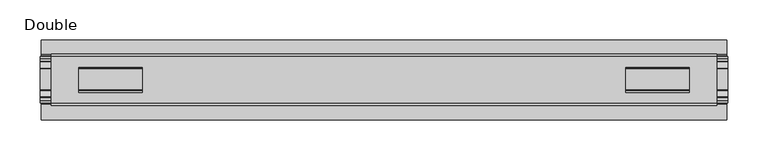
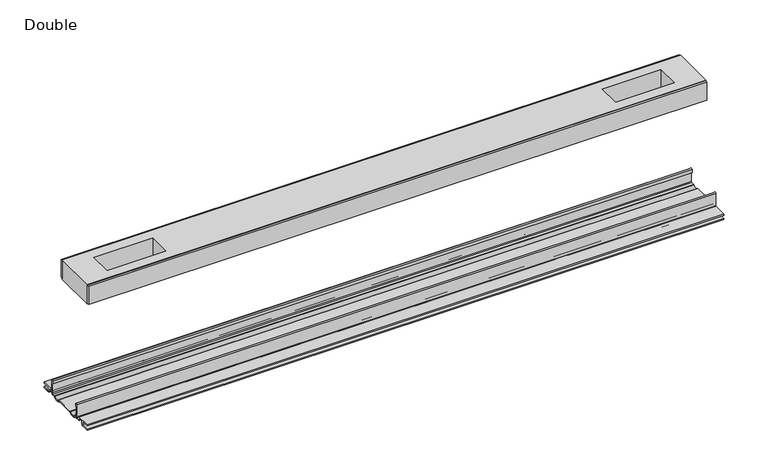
"""IFC4 building model written with IfcOpenShell, lengths in millimetres: proxy geometry, Frame-Teknion-FHCRA-Horizontal_Rail-R2022 : Double."""

import ifcopenshell
import ifcopenshell.guid

model = None  # the IFC model being written
_history = None  # IfcOwnerHistory: only IFC2X3 demands one
_inside = {}  # id of a spatial element -> (the spatial element, [elements in it])
_under = {}  # id of a project, library or spatial element -> (it, [spatial elements below it])
_declared = {}  # id of a project -> (the project, [libraries it declares])
_typed = {}  # id of a type object -> (the type object, [elements of that type])
_made_of = {}  # id of a material, layer set ... -> (it, [elements and type objects made of it])


def new_model(schema):
    """Start an empty IFC model of exactly this schema.

    Asked for "IFC4X3", IfcOpenShell would pick the latest addendum, in which some entities
    have other attributes; the version numbers below select the first issue.
    IFC2X3 requires an IfcOwnerHistory on every rooted entity: one is made here for all.
    """
    global model, _history
    if schema == "IFC4X3":
        model = ifcopenshell.file(schema_version=(4, 3, 0, 0))
    else:
        model = ifcopenshell.file(schema=schema)
    _inside.clear()
    _under.clear()
    _declared.clear()
    _typed.clear()
    _made_of.clear()
    _history = None
    if model.schema == "IFC2X3":
        org = make("IfcOrganization", Name="unknown")
        user = make(
            "IfcPersonAndOrganization",
            ThePerson=make("IfcPerson", FamilyName="unknown"),
            TheOrganization=org,
        )
        app = make(
            "IfcApplication",
            ApplicationDeveloper=org,
            Version="unknown",
            ApplicationFullName="unknown",
            ApplicationIdentifier="unknown",
        )
        _history = make(
            "IfcOwnerHistory",
            OwningUser=user,
            OwningApplication=app,
            ChangeAction="ADDED",
            CreationDate=0,
        )
    return model


def make(cls, **values):
    """One entity of the class cls with the attributes given. An attribute that is None is left unset."""
    return model.create_entity(
        cls, **{name: value for name, value in values.items() if value is not None}
    )


def rooted(cls, **values):
    """An entity with a GlobalId (a new one), such as an element, a storey or a relation."""
    return make(cls, GlobalId=ifcopenshell.guid.new(), OwnerHistory=_history, **values)


def si_unit(unit_type, name, prefix=None):
    """IfcSIUnit, for example si_unit("LENGTHUNIT", "METRE", prefix="MILLI")."""
    return make("IfcSIUnit", UnitType=unit_type, Prefix=prefix, Name=name)


def assignment(units):
    """IfcUnitAssignment: the units of a project."""
    return None if units is None else make("IfcUnitAssignment", Units=units)


def point(xyz):
    """IfcCartesianPoint."""
    return None if xyz is None else make("IfcCartesianPoint", Coordinates=xyz)


def direction(xyz):
    """IfcDirection."""
    return None if xyz is None else make("IfcDirection", DirectionRatios=xyz)


def frame(location, z_axis=None, x_axis=None):
    """IfcAxis2Placement3D, a coordinate frame: its origin and axes. An axis left out is left unset."""
    return make(
        "IfcAxis2Placement3D",
        Location=point(location),
        Axis=direction(z_axis),
        RefDirection=direction(x_axis),
    )


def frame_2d(location, x_axis=None):
    """IfcAxis2Placement2D, a coordinate frame in the plane: its origin and x axis."""
    return make(
        "IfcAxis2Placement2D", Location=point(location), RefDirection=direction(x_axis)
    )


def origin():
    """The frame at (0, 0, 0) with its axes left unset."""
    return frame((0.0, 0.0, 0.0))


def place(relative_to, where):
    """IfcLocalPlacement: puts the frame where relative to a parent placement (None: the world)."""
    return make(
        "IfcLocalPlacement", PlacementRelTo=relative_to, RelativePlacement=where
    )


def context(
    kind, dimensions, precision=None, world=None, true_north=None, identifier=None
):
    """IfcGeometricRepresentationContext, for example the 3D "Model" context."""
    return make(
        "IfcGeometricRepresentationContext",
        ContextIdentifier=identifier,
        ContextType=kind,
        CoordinateSpaceDimension=dimensions,
        Precision=precision,
        WorldCoordinateSystem=world,
        TrueNorth=true_north,
    )


def project(units=None, contexts=None):
    """IfcProject with its units and contexts."""
    return rooted(
        "IfcProject",
        Name="project",
        RepresentationContexts=contexts,
        UnitsInContext=assignment(units),
    )


def spatial(cls, under=None, at=None, **own):
    """A site, building, storey or space (cls), placed at a placement, below another one or the project."""
    s = rooted(cls, ObjectPlacement=at, **own)
    if under is not None:
        _under.setdefault(under.id(), (under, []))[1].append(s)
    return s


def polyline(points):
    """IfcPolyline through the points."""
    return make("IfcPolyline", Points=[point(p) for p in points])


def circle_curve(where, radius):
    """IfcCircle in the frame where."""
    return make("IfcCircle", Position=where, Radius=radius)


def trimmed(basis, trim1, trim2, sense, master):
    """IfcTrimmedCurve: the piece of a basis curve between two trims."""
    return make(
        "IfcTrimmedCurve",
        BasisCurve=basis,
        Trim1=trim1,
        Trim2=trim2,
        SenseAgreement=sense,
        MasterRepresentation=master,
    )


def segment(curve, same_sense, transition):
    """IfcCompositeCurveSegment."""
    return make(
        "IfcCompositeCurveSegment",
        Transition=transition,
        SameSense=same_sense,
        ParentCurve=curve,
    )


def composite_curve(segments, self_intersect=None):
    """IfcCompositeCurve: segments joined end to end."""
    return make("IfcCompositeCurve", Segments=segments, SelfIntersect=self_intersect)


def outline(outer, holes=None, kind="AREA"):
    """IfcArbitraryClosedProfileDef: a profile drawn as a closed curve; with holes, ...WithVoids."""
    if holes is None:
        return make("IfcArbitraryClosedProfileDef", ProfileType=kind, OuterCurve=outer)
    return make(
        "IfcArbitraryProfileDefWithVoids",
        ProfileType=kind,
        OuterCurve=outer,
        InnerCurves=holes,
    )


def extrude(swept, where, along, depth):
    """IfcExtrudedAreaSolid: the profile swept, set in the frame where, extruded along a direction by depth."""
    return make(
        "IfcExtrudedAreaSolid",
        SweptArea=swept,
        Position=where,
        ExtrudedDirection=direction(along),
        Depth=depth,
    )


def shape(context_of_items, identifier, shape_type, items):
    """IfcShapeRepresentation: the items that make up one representation, for example the "Body"."""
    return make(
        "IfcShapeRepresentation",
        ContextOfItems=context_of_items,
        RepresentationIdentifier=identifier,
        RepresentationType=shape_type,
        Items=items,
    )


def source(mapping_origin, context_of_items, identifier, shape_type, items):
    """IfcRepresentationMap: a shape defined once, which mapped items show again and again."""
    return make(
        "IfcRepresentationMap",
        MappingOrigin=mapping_origin,
        MappedRepresentation=shape(context_of_items, identifier, shape_type, items),
    )


def transform(
    local_origin,
    x_axis=None,
    y_axis=None,
    z_axis=None,
    scale=None,
    scale2=None,
    scale3=None,
    uniform=True,
):
    """IfcCartesianTransformationOperator3D, or its non-uniform kind. x_axis, y_axis, z_axis: its Axis1, 2, 3."""
    if uniform:
        return make(
            "IfcCartesianTransformationOperator3D",
            Axis1=direction(x_axis),
            Axis2=direction(y_axis),
            LocalOrigin=point(local_origin),
            Scale=scale,
            Axis3=direction(z_axis),
        )
    return make(
        "IfcCartesianTransformationOperator3DnonUniform",
        Axis1=direction(x_axis),
        Axis2=direction(y_axis),
        LocalOrigin=point(local_origin),
        Scale=scale,
        Axis3=direction(z_axis),
        Scale2=scale2,
        Scale3=scale3,
    )


def mapped(mapping_source, mapping_target):
    """IfcMappedItem: shows the shape of a source again, moved by a transform."""
    return make(
        "IfcMappedItem", MappingSource=mapping_source, MappingTarget=mapping_target
    )


def made_of(thing, what):
    """Note that an element or type object is made of a material, layer set ...; save() writes the relation."""
    if what is not None:
        _made_of.setdefault(what.id(), (what, []))[1].append(thing)
    return thing


def element(
    cls,
    number,
    at=None,
    inside=None,
    cuts=None,
    type_object=None,
    material=None,
    context=None,
    identifier="Body",
    shape_type=None,
    held_by="IfcProductDefinitionShape",
    body=None,
    shapes=None,
    **own,
):
    """One element of the class cls, such as IfcWall. Its Tag is "e" and its number.

    at: its placement. inside: the storey or other place that contains it. cuts: it is an
    opening in that element (IfcRelVoidsElement). A single representation is given by context,
    identifier, shape_type and body (its items); several are given by shapes. held_by: the class
    of the entity that holds the representations. save() writes the other relations.
    """
    e = rooted(cls, Tag="e%d" % number, ObjectPlacement=at, **own)
    if body is not None:
        shapes = [shape(context, identifier, shape_type, body)]
    if shapes is not None:
        e.Representation = make(held_by, Representations=shapes)
    if inside is not None:
        _inside.setdefault(inside.id(), (inside, []))[1].append(e)
    if cuts is not None:
        rooted(
            "IfcRelVoidsElement", RelatingBuildingElement=cuts, RelatedOpeningElement=e
        )
    if type_object is not None:
        _typed.setdefault(type_object.id(), (type_object, []))[1].append(e)
    return made_of(e, material)


def aggregate(whole, parts):
    """IfcRelAggregates: a whole, such as a stair, and the parts it consists of."""
    return rooted("IfcRelAggregates", RelatingObject=whole, RelatedObjects=parts)


def save(model, path):
    """Write the relations noted so far, then the file.

    IfcRelAggregates (storeys below a building ...), IfcRelContainedInSpatialStructure (elements
    in a storey), IfcRelDefinesByType, IfcRelAssociatesMaterial and IfcRelDeclares: one each for
    every whole, place, type object, material and project.
    """
    for whole, parts in _under.values():
        aggregate(whole, parts)
    for where, things in _inside.values():
        rooted(
            "IfcRelContainedInSpatialStructure",
            RelatedElements=things,
            RelatingStructure=where,
        )
    for kind, things in _typed.values():
        rooted("IfcRelDefinesByType", RelatedObjects=things, RelatingType=kind)
    for what, things in _made_of.values():
        rooted("IfcRelAssociatesMaterial", RelatedObjects=things, RelatingMaterial=what)
    for by, libraries in _declared.values():
        rooted("IfcRelDeclares", RelatingContext=by, RelatedDefinitions=libraries)
    model.write(path)


def double_41ed11e7(model_context):
    return source(origin(), model_context, "Body", "SweptSolid", [
        extrude(outline(polyline([(415.8615091, -29.0068005), (415.8615091, -32.1817997), (-415.8615091, -32.1817997), (-415.8615091, -29.0068005), (415.8615091, -29.0068005)])), frame((0.0, 0.0, 149.8401622), z_axis=(0.0, 0.0, 1.0), x_axis=(1.0, 0.0, 0.0)), (0.0, 0.0, 1.0), 25.3999939),
        extrude(outline(polyline([(415.8615091, 32.1817997), (415.8615091, 29.0068005), (-415.8615091, 29.0068005), (-415.8615091, 32.1817997), (415.8615091, 32.1817997)])), frame((0.0, 0.0, 149.8401622), z_axis=(0.0, 0.0, 1.0), x_axis=(1.0, 0.0, 0.0)), (0.0, 0.0, 1.0), 25.3999939),
        extrude(outline(polyline([(415.8615091, 29.0068005), (415.8615091, -29.0068005), (-415.8615091, -29.0068005), (-415.8615091, 29.0068005), (415.8615091, 29.0068005)]), holes=[polyline([(381.4444965, 15.1130038), (302.3996847, 15.1130038), (302.3996847, -15.875003), (381.4444965, -15.875003), (381.4444965, 15.1130038)]), polyline([(-381.4444965, 15.1130038), (-381.4444965, -15.875003), (-302.3996847, -15.875003), (-302.3996847, 15.1130038), (-381.4444965, 15.1130038)])]), frame((0.0, 0.0, 148.4185847), z_axis=(0.0, 0.0, 1.0), x_axis=(1.0, 0.0, 0.0)), (0.0, 0.0, 1.0), 27.9999988),
        extrude(outline(composite_curve([segment(polyline([(-28.8162961, -7.7516037), (-28.8162961, 9.8607558)]), True, "CONTINUOUS"), segment(trimmed(circle_curve(frame_2d((-27.5970982, 9.8607558)), 1.2191979), [point((-28.8162961, 9.8607558))], [point((-26.3779003, 9.8607558))], False, "CARTESIAN"), True, "CONTINUOUS"), segment(polyline([(-26.3779003, 9.8607558), (-26.3779003, 5.9999563), (-27.6580769, 5.9999563), (-27.6580769, -7.7516037)]), True, "CONTINUOUS"), segment(trimmed(circle_curve(frame_2d((-26.6420561, -7.7516037)), 1.0160208), [point((-27.6580769, -7.7516037))], [point((-26.6485732, -8.7676036))], True, "CARTESIAN"), True, "CONTINUOUS"), segment(polyline([(-26.6485732, -8.7676036), (-22.7056226, -8.7676036), (-21.7922609, -8.968753)]), True, "CONTINUOUS"), segment(trimmed(circle_curve(frame_2d((-17.7673021, -6.1259382)), 4.9276657), [point((-21.7922609, -8.968753))], [point((-13.7423434, -8.968753))], True, "CARTESIAN"), True, "CONTINUOUS"), segment(polyline([(-13.7423434, -8.968753), (-12.8289726, -8.7676036), (13.2099722, -8.7676036), (14.123343, -8.968753)]), True, "CONTINUOUS"), segment(trimmed(circle_curve(frame_2d((18.1483018, -6.1259382)), 4.9276657), [point((14.123343, -8.968753))], [point((22.1732605, -8.968753))], True, "CARTESIAN"), True, "CONTINUOUS"), segment(polyline([(22.1732605, -8.968753), (23.0866222, -8.7676036), (27.0295728, -8.7676036)]), True, "CONTINUOUS"), segment(trimmed(circle_curve(frame_2d((27.0230557, -7.7516037)), 1.0160208), [point((27.0295728, -8.7676036))], [point((28.0390765, -7.7516037))], True, "CARTESIAN"), True, "CONTINUOUS"), segment(polyline([(28.0390765, -7.7516037), (28.0390765, 5.9999563), (26.7588999, 5.9999563), (26.7588999, 9.8607558)]), True, "CONTINUOUS"), segment(trimmed(circle_curve(frame_2d((27.9780978, 9.8607558)), 1.2191979), [point((26.7588999, 9.8607558))], [point((29.1972958, 9.8607558))], False, "CARTESIAN"), True, "CONTINUOUS"), segment(polyline([(29.1972958, 9.8607558), (29.1972958, -7.7516037)]), True, "CONTINUOUS"), segment(trimmed(circle_curve(frame_2d((27.0230557, -7.7516037)), 2.17424), [point((29.1972958, -7.7516037))], [point((27.0230557, -9.9258438))], False, "CARTESIAN"), True, "CONTINUOUS"), segment(polyline([(27.0230557, -9.9258438), (22.732069, -9.9258438)]), True, "CONTINUOUS"), segment(trimmed(circle_curve(frame_2d((18.1516545, -6.4800016)), 5.7318431), [point((22.732069, -9.9258438))], [point((13.57124, -9.9258438))], False, "CARTESIAN"), True, "CONTINUOUS"), segment(polyline([(13.57124, -9.9258438), (-13.1902404, -9.9258438)]), True, "CONTINUOUS"), segment(trimmed(circle_curve(frame_2d((-17.7706549, -6.4800016)), 5.7318431), [point((-13.1902404, -9.9258438))], [point((-22.3510694, -9.9258438))], False, "CARTESIAN"), True, "CONTINUOUS"), segment(polyline([(-22.3510694, -9.9258438), (-26.6420561, -9.9258438)]), True, "CONTINUOUS"), segment(trimmed(circle_curve(frame_2d((-26.6420561, -7.7516037)), 2.17424), [point((-26.6420561, -9.9258438))], [point((-28.8162961, -7.7516037))], False, "CARTESIAN"), True, "CONTINUOUS")], self_intersect=False)), frame((-429.9204, 0.0, 0.0), z_axis=(1.0, 0.0, 0.0), x_axis=(0.0, 1.0, 0.0)), (0.0, 0.0, 1.0), 859.8408),
        extrude(outline(composite_curve([segment(polyline([(-50.2668422, -13.9898438), (-50.2240211, -12.3388438), (-39.7827507, -12.3388438), (-39.7827507, -7.766844), (-50.2240211, -7.766844), (-50.2668422, -6.1158439), (-31.1784975, -6.1158439)]), True, "CONTINUOUS"), segment(trimmed(circle_curve(frame_2d((-31.1784975, -7.6398436)), 1.5239997), [point((-31.1784975, -6.1158439))], [point((-29.6544978, -7.6398436))], False, "CARTESIAN"), True, "CONTINUOUS"), segment(polyline([(-29.6544978, -7.6398436), (-29.6544978, -9.9258438), (-23.1058344, -9.9258438)]), True, "CONTINUOUS"), segment(trimmed(circle_curve(frame_2d((-17.7673021, -5.2268471)), 7.1119966), [point((-23.1058344, -9.9258438))], [point((-12.4287699, -9.9258438))], True, "CARTESIAN"), True, "CONTINUOUS"), segment(polyline([(-12.4287699, -9.9258438), (12.8097695, -9.9258438)]), True, "CONTINUOUS"), segment(trimmed(circle_curve(frame_2d((18.1483018, -5.2268471)), 7.1119966), [point((12.8097695, -9.9258438))], [point((23.486834, -9.9258438))], True, "CARTESIAN"), True, "CONTINUOUS"), segment(polyline([(23.486834, -9.9258438), (30.0354975, -9.9258438), (30.0354975, -7.7656583)]), True, "CONTINUOUS"), segment(trimmed(circle_curve(frame_2d((31.6864982, -7.7656583)), 1.6510007), [point((30.0354975, -7.7656583))], [point((31.6239218, -6.1158439))], False, "CARTESIAN"), True, "CONTINUOUS"), segment(polyline([(31.6239218, -6.1158439), (50.00625, -6.1158439), (50.00625, -7.766844), (40.1637503, -7.766844), (40.1637503, -12.3388438), (50.00625, -12.3388438), (50.00625, -13.9898438), (40.0367518, -13.9898438)]), True, "CONTINUOUS"), segment(trimmed(circle_curve(frame_2d((40.0367518, -12.4658438)), 1.524), [point((40.0367518, -13.9898438))], [point((38.5127519, -12.4658438))], False, "CARTESIAN"), True, "CONTINUOUS"), segment(polyline([(38.5127519, -12.4658438), (38.5127519, -7.766844), (31.686497, -7.766844), (31.686497, -10.0528438)]), True, "CONTINUOUS"), segment(trimmed(circle_curve(frame_2d((30.1624971, -10.0528438)), 1.524), [point((31.686497, -10.0528438))], [point((30.1624971, -11.5768438))], False, "CARTESIAN"), True, "CONTINUOUS"), segment(polyline([(30.1624971, -11.5768438), (23.6563549, -11.5768438)]), True, "CONTINUOUS"), segment(trimmed(circle_curve(frame_2d((18.1483018, -6.4968436)), 7.4930002), [point((23.6563549, -11.5768438))], [point((12.8904968, -11.8354331))], False, "CARTESIAN"), True, "CONTINUOUS"), segment(polyline([(12.8904968, -11.8354331), (-12.5094972, -11.8354331)]), True, "CONTINUOUS"), segment(trimmed(circle_curve(frame_2d((-17.7673021, -6.4968436)), 7.4930002), [point((-12.5094972, -11.8354331))], [point((-23.2753553, -11.5768438))], False, "CARTESIAN"), True, "CONTINUOUS"), segment(polyline([(-23.2753553, -11.5768438), (-29.7814974, -11.5768438)]), True, "CONTINUOUS"), segment(trimmed(circle_curve(frame_2d((-29.7814974, -10.0528438)), 1.524), [point((-29.7814974, -11.5768438))], [point((-31.3054974, -10.0528438))], False, "CARTESIAN"), True, "CONTINUOUS"), segment(polyline([(-31.3054974, -10.0528438), (-31.3054974, -7.766844), (-38.1317522, -7.766844), (-38.1317522, -12.4658438)]), True, "CONTINUOUS"), segment(trimmed(circle_curve(frame_2d((-39.6557522, -12.4658438)), 1.524), [point((-38.1317522, -12.4658438))], [point((-39.6557522, -13.9898438))], False, "CARTESIAN"), True, "CONTINUOUS"), segment(polyline([(-39.6557522, -13.9898438), (-50.2668422, -13.9898438)]), True, "CONTINUOUS")], self_intersect=False)), frame((-428.2694, 0.0, 0.0), z_axis=(1.0, 0.0, 0.0), x_axis=(0.0, 1.0, 0.0)), (0.0, 0.0, 1.0), 856.5388),
    ])


if __name__ == "__main__":
    model = new_model("IFC4")
    model_context = context("Model", 3, world=origin())
    ifc_project = project(units=[si_unit("LENGTHUNIT", "METRE", prefix="MILLI")], contexts=[model_context])
    site = spatial("IfcSite", under=ifc_project)
    building = spatial("IfcBuilding", under=site)
    placement = place(None, origin())
    double_shape = double_41ed11e7(model_context)
    element("IfcBuildingElementProxy", 1, Name="Frame-Teknion-FHCRA-Horizontal_Rail-R2022 : Double", ObjectType="Frame-Teknion-FHCRA-Horizontal_Rail-R2022 : Double", at=placement, inside=building, context=model_context, shape_type="MappedRepresentation", body=[
        mapped(double_shape, transform((0.0, 0.0, 0.0), x_axis=(1.0, 0.0, 0.0), y_axis=(0.0, 1.0, 0.0), z_axis=(0.0, 0.0, 1.0))),
    ])
    save(model, "model.ifc")
